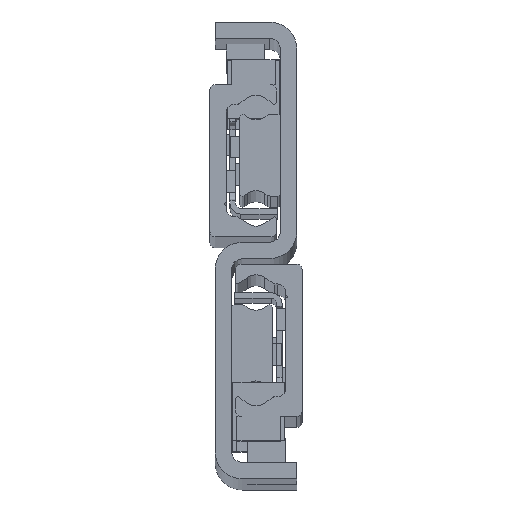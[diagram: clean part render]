
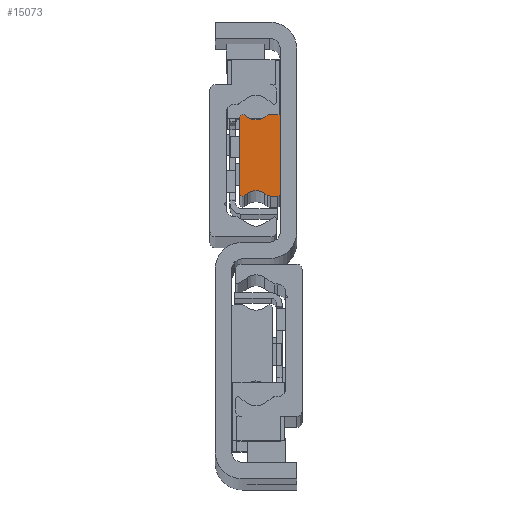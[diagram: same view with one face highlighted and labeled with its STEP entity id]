
A CAD part, top view. The second image highlights one B-rep face of the part: STEP entity #15073.
In plain terms, the highlighted planar face has unit normal (0, 0, 1) as drawn and (0, 0, -1) by its records, which use the part's own axes.
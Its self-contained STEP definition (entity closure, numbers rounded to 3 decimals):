
#107 = EDGE_CURVE ( 'NONE', #16273, #5642, #4587, .T. ) ;
#153 = EDGE_CURVE ( 'NONE', #6307, #632, #13769, .T. ) ;
#208 = DIRECTION ( 'NONE',  ( 0., 0., 1. ) ) ;
#258 = AXIS2_PLACEMENT_3D ( 'NONE', #8577, #16278, #11187 ) ;
#277 = AXIS2_PLACEMENT_3D ( 'NONE', #4931, #1266, #11384 ) ;
#366 = DIRECTION ( 'NONE',  ( 0., 0., -1. ) ) ;
#421 = CARTESIAN_POINT ( 'NONE',  ( 4.5, -9.272, 0. ) ) ;
#431 = EDGE_CURVE ( 'NONE', #14297, #4098, #10361, .T. ) ;
#435 = VECTOR ( 'NONE', #5085, 1000. ) ;
#496 = DIRECTION ( 'NONE',  ( -1., 0., 0. ) ) ;
#632 = VERTEX_POINT ( 'NONE', #11471 ) ;
#733 = VECTOR ( 'NONE', #5679, 1000. ) ;
#878 = EDGE_CURVE ( 'NONE', #5642, #3259, #16132, .T. ) ;
#969 = VERTEX_POINT ( 'NONE', #5526 ) ;
#1190 = DIRECTION ( 'NONE',  ( 0., 0., 1. ) ) ;
#1266 = DIRECTION ( 'NONE',  ( 0., 0., 1. ) ) ;
#1323 = DIRECTION ( 'NONE',  ( 0.819, -0.574, 0. ) ) ;
#1345 = ORIENTED_EDGE ( 'NONE', *, *, #431, .F. ) ;
#1669 = CARTESIAN_POINT ( 'NONE',  ( 0.5, 7.5, 0. ) ) ;
#1720 = VERTEX_POINT ( 'NONE', #14543 ) ;
#1923 = VECTOR ( 'NONE', #16223, 1000. ) ;
#1999 = VECTOR ( 'NONE', #15618, 1000. ) ;
#2182 = DIRECTION ( 'NONE',  ( 0., -1., 0. ) ) ;
#2238 = CARTESIAN_POINT ( 'NONE',  ( 6.677, -7.405, 0. ) ) ;
#2389 = CARTESIAN_POINT ( 'NONE',  ( 0.5, 7., 0. ) ) ;
#2452 = CARTESIAN_POINT ( 'NONE',  ( 1.873, -6.5, 0. ) ) ;
#2750 = DIRECTION ( 'NONE',  ( -1., 0., 0. ) ) ;
#2942 = CARTESIAN_POINT ( 'NONE',  ( 6.977, 6.977, 0. ) ) ;
#3259 = VERTEX_POINT ( 'NONE', #14359 ) ;
#3467 = CIRCLE ( 'NONE', #16292, 0.523 ) ;
#3688 = LINE ( 'NONE', #12029, #733 ) ;
#3778 = ORIENTED_EDGE ( 'NONE', *, *, #12329, .F. ) ;
#4098 = VERTEX_POINT ( 'NONE', #5977 ) ;
#4154 = EDGE_CURVE ( 'NONE', #1720, #15763, #9845, .T. ) ;
#4167 = AXIS2_PLACEMENT_3D ( 'NONE', #7757, #208, #2750 ) ;
#4270 = ORIENTED_EDGE ( 'NONE', *, *, #4154, .F. ) ;
#4365 = AXIS2_PLACEMENT_3D ( 'NONE', #421, #366, #13204 ) ;
#4460 = CARTESIAN_POINT ( 'NONE',  ( 0.5, -7.5, 0. ) ) ;
#4566 = CARTESIAN_POINT ( 'NONE',  ( 6.977, -6.977, 0. ) ) ;
#4587 = LINE ( 'NONE', #5386, #1999 ) ;
#4625 = EDGE_CURVE ( 'NONE', #3259, #8122, #13506, .T. ) ;
#4644 = ORIENTED_EDGE ( 'NONE', *, *, #5990, .F. ) ;
#4910 = ORIENTED_EDGE ( 'NONE', *, *, #7260, .F. ) ;
#4931 = CARTESIAN_POINT ( 'NONE',  ( 1.873, 6.5, 0. ) ) ;
#4981 = ORIENTED_EDGE ( 'NONE', *, *, #107, .F. ) ;
#5032 = CIRCLE ( 'NONE', #4167, 0.5 ) ;
#5036 = VERTEX_POINT ( 'NONE', #4460 ) ;
#5082 = FACE_OUTER_BOUND ( 'NONE', #5490, .T. ) ;
#5085 = DIRECTION ( 'NONE',  ( 0.819, 0.574, 0. ) ) ;
#5317 = EDGE_CURVE ( 'NONE', #13850, #1720, #16081, .T. ) ;
#5344 = CARTESIAN_POINT ( 'NONE',  ( 1.873, 7.5, 0. ) ) ;
#5386 = CARTESIAN_POINT ( 'NONE',  ( 0.5, 7.5, 0. ) ) ;
#5490 = EDGE_LOOP ( 'NONE', ( #4910, #7904, #1345, #3778, #15595, #9507, #13087, #13953, #15948, #14860, #8941, #4981, #4644, #9885, #4270, #10151 ) ) ;
#5526 = CARTESIAN_POINT ( 'NONE',  ( 7.5, 6.977, 0. ) ) ;
#5642 = VERTEX_POINT ( 'NONE', #1669 ) ;
#5679 = DIRECTION ( 'NONE',  ( -0.819, 0.574, 0. ) ) ;
#5718 = LINE ( 'NONE', #7423, #1923 ) ;
#5752 = EDGE_CURVE ( 'NONE', #15763, #9038, #3688, .T. ) ;
#5861 = DIRECTION ( 'NONE',  ( 0., 0., 1. ) ) ;
#5977 = CARTESIAN_POINT ( 'NONE',  ( 7.5, -6.977, 0. ) ) ;
#5990 = EDGE_CURVE ( 'NONE', #9038, #16273, #9658, .T. ) ;
#6135 = DIRECTION ( 'NONE',  ( -0.819, -0.574, 0. ) ) ;
#6307 = VERTEX_POINT ( 'NONE', #11173 ) ;
#6357 = LINE ( 'NONE', #8084, #10547 ) ;
#6509 = VECTOR ( 'NONE', #6135, 1000. ) ;
#6785 = DIRECTION ( 'NONE',  ( -1., 0., 0. ) ) ;
#6876 = AXIS2_PLACEMENT_3D ( 'NONE', #2452, #1190, #11359 ) ;
#6895 = DIRECTION ( 'NONE',  ( 0., 0., 1. ) ) ;
#6984 = LINE ( 'NONE', #15233, #11138 ) ;
#7260 = EDGE_CURVE ( 'NONE', #969, #13850, #3467, .T. ) ;
#7423 = CARTESIAN_POINT ( 'NONE',  ( 7.5, 6.977, 0. ) ) ;
#7757 = CARTESIAN_POINT ( 'NONE',  ( 0.5, -7., 0. ) ) ;
#7840 = AXIS2_PLACEMENT_3D ( 'NONE', #14519, #10716, #496 ) ;
#7904 = ORIENTED_EDGE ( 'NONE', *, *, #14313, .F. ) ;
#8084 = CARTESIAN_POINT ( 'NONE',  ( 1.873, -7.5, 0. ) ) ;
#8121 = CARTESIAN_POINT ( 'NONE',  ( 6.093, -6.997, 0. ) ) ;
#8122 = VERTEX_POINT ( 'NONE', #10370 ) ;
#8577 = CARTESIAN_POINT ( 'NONE',  ( 4.5, 9.272, 0. ) ) ;
#8941 = ORIENTED_EDGE ( 'NONE', *, *, #878, .F. ) ;
#8973 = CARTESIAN_POINT ( 'NONE',  ( 2.907, -6.997, 0. ) ) ;
#9038 = VERTEX_POINT ( 'NONE', #10522 ) ;
#9317 = PLANE ( 'NONE',  #7840 ) ;
#9507 = ORIENTED_EDGE ( 'NONE', *, *, #153, .F. ) ;
#9558 = EDGE_CURVE ( 'NONE', #632, #14550, #15756, .T. ) ;
#9658 = CIRCLE ( 'NONE', #277, 1. ) ;
#9845 = CIRCLE ( 'NONE', #258, 2.778 ) ;
#9885 = ORIENTED_EDGE ( 'NONE', *, *, #5752, .F. ) ;
#9952 = CARTESIAN_POINT ( 'NONE',  ( 6.093, 6.997, 0. ) ) ;
#10151 = ORIENTED_EDGE ( 'NONE', *, *, #5317, .F. ) ;
#10256 = EDGE_CURVE ( 'NONE', #5036, #14265, #6357, .T. ) ;
#10361 = CIRCLE ( 'NONE', #16320, 0.523 ) ;
#10370 = CARTESIAN_POINT ( 'NONE',  ( 0., -7., 0. ) ) ;
#10522 = CARTESIAN_POINT ( 'NONE',  ( 2.446, 7.319, 0. ) ) ;
#10527 = VECTOR ( 'NONE', #2182, 1000. ) ;
#10547 = VECTOR ( 'NONE', #13157, 1000. ) ;
#10716 = DIRECTION ( 'NONE',  ( 0., 0., -1. ) ) ;
#11138 = VECTOR ( 'NONE', #1323, 1000. ) ;
#11149 = EDGE_CURVE ( 'NONE', #8122, #5036, #5032, .T. ) ;
#11173 = CARTESIAN_POINT ( 'NONE',  ( 2.446, -7.319, 0. ) ) ;
#11187 = DIRECTION ( 'NONE',  ( 1., 0., 0. ) ) ;
#11359 = DIRECTION ( 'NONE',  ( -1., 0., 0. ) ) ;
#11384 = DIRECTION ( 'NONE',  ( -1., 0., 0. ) ) ;
#11471 = CARTESIAN_POINT ( 'NONE',  ( 2.907, -6.997, 0. ) ) ;
#12029 = CARTESIAN_POINT ( 'NONE',  ( 2.446, 7.319, 0. ) ) ;
#12329 = EDGE_CURVE ( 'NONE', #14550, #14297, #6984, .T. ) ;
#12677 = AXIS2_PLACEMENT_3D ( 'NONE', #2389, #13984, #15136 ) ;
#12880 = CIRCLE ( 'NONE', #6876, 1. ) ;
#13087 = ORIENTED_EDGE ( 'NONE', *, *, #14391, .F. ) ;
#13157 = DIRECTION ( 'NONE',  ( 1., 0., 0. ) ) ;
#13204 = DIRECTION ( 'NONE',  ( 1., 0., 0. ) ) ;
#13506 = LINE ( 'NONE', #15993, #10527 ) ;
#13769 = LINE ( 'NONE', #8973, #435 ) ;
#13850 = VERTEX_POINT ( 'NONE', #15398 ) ;
#13953 = ORIENTED_EDGE ( 'NONE', *, *, #10256, .F. ) ;
#13984 = DIRECTION ( 'NONE',  ( 0., 0., 1. ) ) ;
#14265 = VERTEX_POINT ( 'NONE', #16114 ) ;
#14297 = VERTEX_POINT ( 'NONE', #2238 ) ;
#14313 = EDGE_CURVE ( 'NONE', #4098, #969, #5718, .T. ) ;
#14359 = CARTESIAN_POINT ( 'NONE',  ( 0., 7., 0. ) ) ;
#14391 = EDGE_CURVE ( 'NONE', #14265, #6307, #12880, .T. ) ;
#14519 = CARTESIAN_POINT ( 'NONE',  ( 6.977, 6.977, 0. ) ) ;
#14543 = CARTESIAN_POINT ( 'NONE',  ( 6.093, 6.997, 0. ) ) ;
#14550 = VERTEX_POINT ( 'NONE', #8121 ) ;
#14758 = DIRECTION ( 'NONE',  ( -1., 0., 0. ) ) ;
#14860 = ORIENTED_EDGE ( 'NONE', *, *, #4625, .F. ) ;
#15073 = ADVANCED_FACE ( 'NONE', ( #5082 ), #9317, .T. ) ;
#15136 = DIRECTION ( 'NONE',  ( -1., 0., 0. ) ) ;
#15233 = CARTESIAN_POINT ( 'NONE',  ( 6.677, -7.405, 0. ) ) ;
#15398 = CARTESIAN_POINT ( 'NONE',  ( 6.677, 7.405, 0. ) ) ;
#15595 = ORIENTED_EDGE ( 'NONE', *, *, #9558, .F. ) ;
#15618 = DIRECTION ( 'NONE',  ( -1., 0., 0. ) ) ;
#15756 = CIRCLE ( 'NONE', #4365, 2.778 ) ;
#15763 = VERTEX_POINT ( 'NONE', #15884 ) ;
#15884 = CARTESIAN_POINT ( 'NONE',  ( 2.907, 6.997, 0. ) ) ;
#15948 = ORIENTED_EDGE ( 'NONE', *, *, #11149, .F. ) ;
#15993 = CARTESIAN_POINT ( 'NONE',  ( 0., -7., 0. ) ) ;
#16081 = LINE ( 'NONE', #9952, #6509 ) ;
#16114 = CARTESIAN_POINT ( 'NONE',  ( 1.873, -7.5, 0. ) ) ;
#16132 = CIRCLE ( 'NONE', #12677, 0.5 ) ;
#16223 = DIRECTION ( 'NONE',  ( 0., 1., 0. ) ) ;
#16273 = VERTEX_POINT ( 'NONE', #5344 ) ;
#16278 = DIRECTION ( 'NONE',  ( 0., 0., -1. ) ) ;
#16292 = AXIS2_PLACEMENT_3D ( 'NONE', #2942, #6895, #6785 ) ;
#16320 = AXIS2_PLACEMENT_3D ( 'NONE', #4566, #5861, #14758 ) ;
